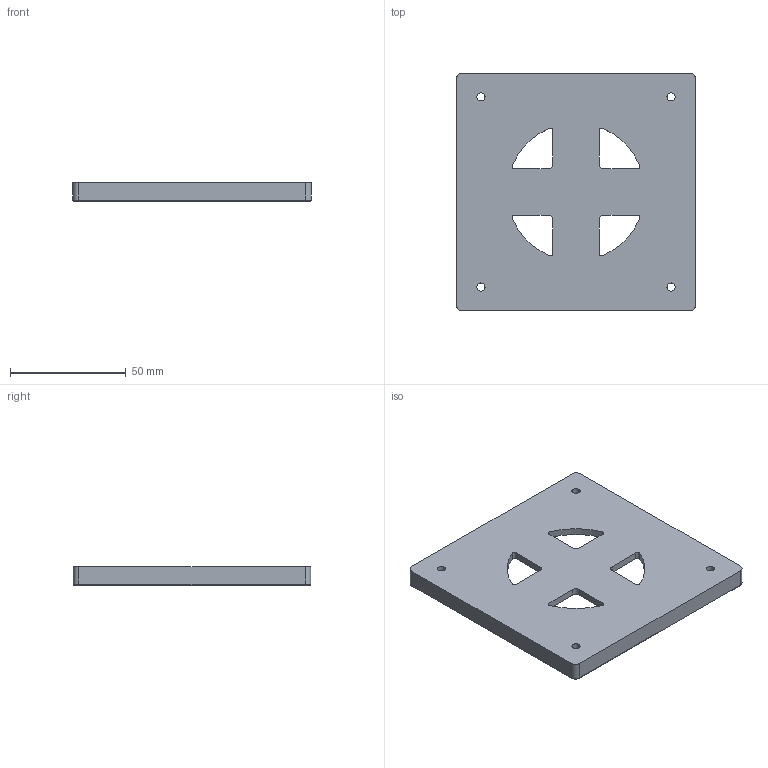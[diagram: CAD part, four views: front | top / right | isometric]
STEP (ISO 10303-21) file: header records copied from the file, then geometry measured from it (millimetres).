
FILE_DESCRIPTION(/* description */ (''),/* implementation_level */ '2;1');
FILE_NAME(/* name */ 'Center hindge_Part 01.stp',/* time_stamp */ '2025-08-27T00:58:17+09:00',/* author */ (''),/* organization */ (''),/* preprocessor_version */ 'ST-DEVELOPER v11',/* originating_system */ 'SIEMENS PLM Software NX 7.5',/* authorisation */ '');
FILE_SCHEMA (('CONFIG_CONTROL_DESIGN'));
Length unit declared in the file: millimetre
Products named in the file (1): gyun8D5Cllzw
Bounding box: 103 x 102.5 x 8 mm (x, y, z)
Volume: 36574.4 mm3; surface area: 25281.3 mm2
Topology: 1 solids, 1 shells, 59 faces, 154 edges, 100 vertices
Faces by surface type: cylinder 33, plane 21, torus 4, cone 1
Full cylindrical faces by diameter (mm): 3.5 x4, 4.26 x1
Entity records: 1928 total; most frequent: DIRECTION 342, CARTESIAN_POINT 309, ORIENTED_EDGE 296, EDGE_CURVE 148, AXIS2_PLACEMENT_3D 133, VERTEX_POINT 100, EDGE_LOOP 84, LINE 76
